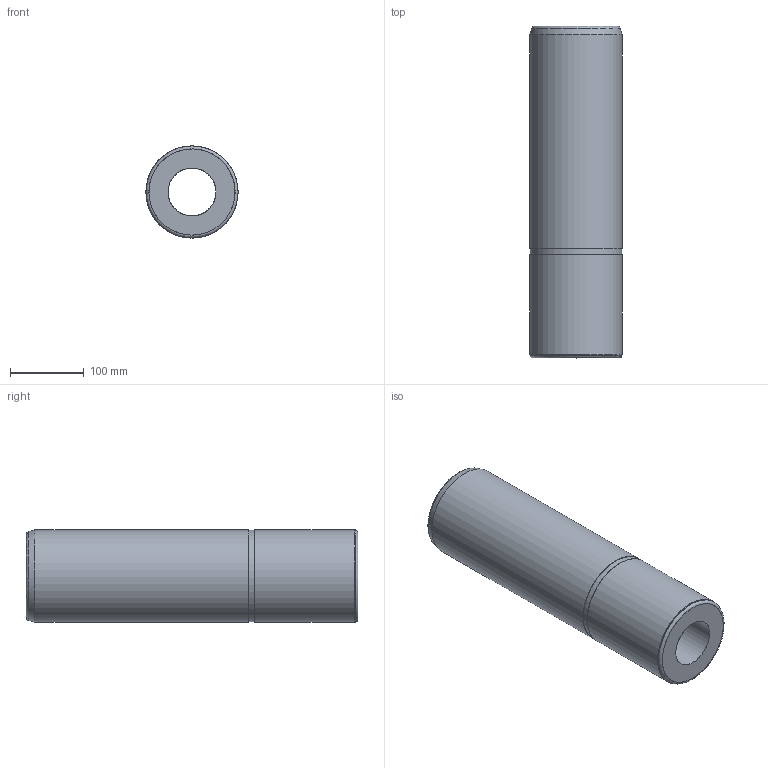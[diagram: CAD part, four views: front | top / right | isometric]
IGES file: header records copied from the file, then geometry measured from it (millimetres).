
Start section: Missler Software BP 521, 31674 Labege Cedex, France Tel   : +33 (0)5 61 00 03 00 Fax   : +33 (0)5 61 00 03 03 Email : sup.topsolid@topsolid.com
Global section: file name: D:\Cuma\26 04 2010\D15g\D15_125450.igs; native system: TopSolid v605250 Missler Software; preprocessor: IGES preprocessor v100000; date: 030225.172814; units: millimetre
Bounding box: 125 x 450 x 125 mm (x, y, z)
Surface area: 287287 mm2 (no closed solid volume)
Topology: 0 solids, 0 shells, 18 faces, 346 edges, 336 vertices
Faces by surface type: bspline 18
